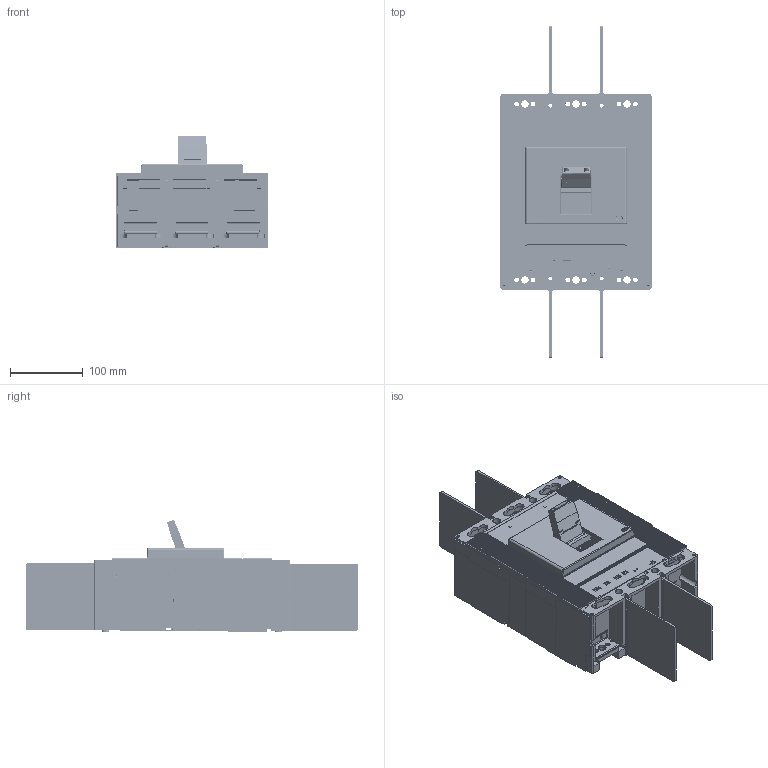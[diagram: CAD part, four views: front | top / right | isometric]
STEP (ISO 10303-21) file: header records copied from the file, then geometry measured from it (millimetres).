
FILE_DESCRIPTION((''),'2;1');
FILE_NAME('10000850645_ASM','2013-12-11T',('Knagaraj'),(''),'PRO/ENGINEER BY PARAMETRIC TECHNOLOGY CORPORATION, 2010140','PRO/ENGINEER BY PARAMETRIC TECHNOLOGY CORPORATION, 2010140','');
FILE_SCHEMA(('CONFIG_CONTROL_DESIGN'));
Products named in the file (5): 10000475867; 10000475868; 10000475869_ASM; 10000850644; 10000850645_ASM
Assembly tree (7 placements, depth 3):
  10000850645_ASM
    10000475869_ASM
      10000475867
      10000475868
    10000850644  x4
Bounding box: 209.5 x 454.8 x 153.8 mm (x, y, z)
Surface area: 1074306.3 mm2 (no closed solid volume)
Topology: 0 solids, 20 shells, 7030 faces, 20714 edges, 13581 vertices
Faces by surface type: plane 4961, cylinder 1743, cone 125, torus 79, sphere 78, extrusion 32, bspline 12
Entity records: 230491 total; most frequent: CARTESIAN_POINT 45087, ORIENTED_EDGE 40153, DIRECTION 36799, EDGE_CURVE 20123, VECTOR 15813, LINE 15781, VERTEX_POINT 13232, AXIS2_PLACEMENT_3D 10493
